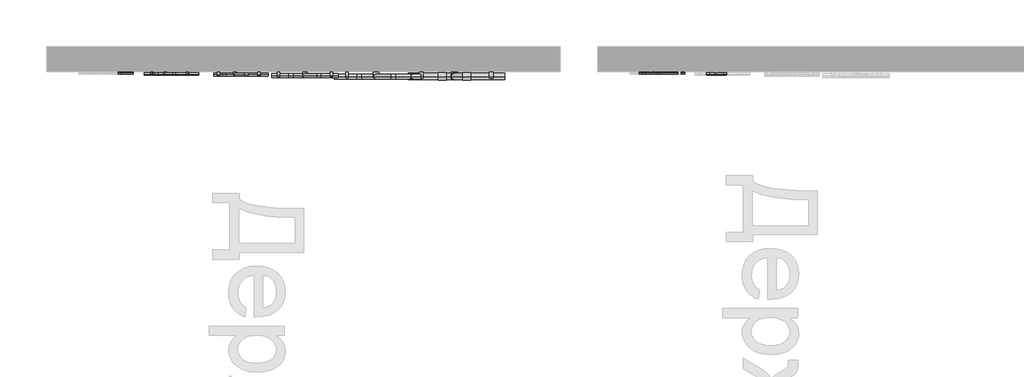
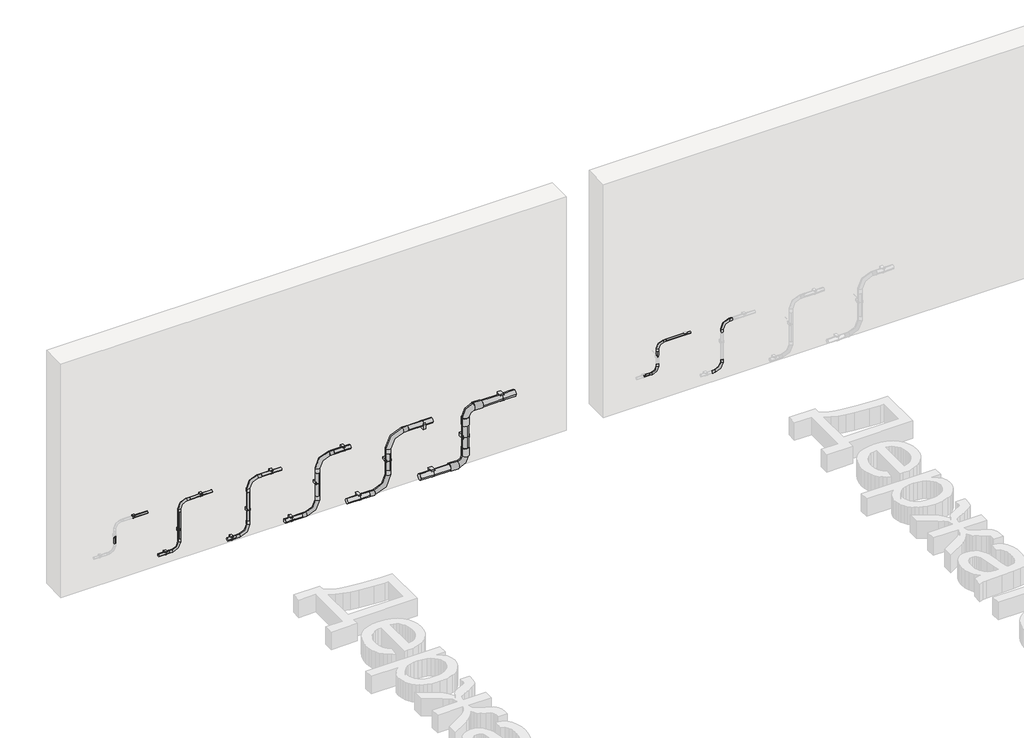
# One storey, part 6 of 33: 36 cable carrier segments, 30 cable carrier fittings.
"""IFC4 building model written with IfcOpenShell, lengths in millimetres."""

from ifc_helpers import new_model, si_unit, point, frame, frame_2d, origin, place, context, project, spatial, circle_curve, trimmed, segment, composite_curve, outline, extrude, transform, mapped, element, save
from components import cable_carrier_fitting_a50456ce, cable_carrier_fitting_980a1c15, cable_carrier_fitting_8512dd8d, cable_carrier_fitting_b8314db6, cable_carrier_fitting_b63e1f67, cable_carrier_fitting_aa8de483, cable_carrier_fitting_233f67c3, cable_carrier_fitting_f1df9ac4, cable_carrier_fitting_216e78f6, cable_carrier_fitting_60fb8931, cable_carrier_fitting_309cf5c9, cable_carrier_fitting_d8a5bbfc

model = new_model("IFC4")

# Units and contexts
model_context = context("Model", 3, world=origin())
ifc_project = project(units=[si_unit("LENGTHUNIT", "METRE", prefix="MILLI")], contexts=[model_context])

# Site, building, storey
site = spatial("IfcSite", under=ifc_project)
building = spatial("IfcBuilding", under=site)
storey = spatial("IfcBuildingStorey", under=building, Name="Уровень 1", Elevation=0.0)

# Cable carrier fittings
placement = place(None, origin())
cable_carrier_fitting_shape = cable_carrier_fitting_a50456ce(model_context)
element("IfcCableCarrierFitting", 1, ObjectType="Отвод Трубы гладкие жесткие ПВХ : Отвод Трубы гладкие жесткие ПВХ", at=placement, inside=storey, context=model_context, shape_type="MappedRepresentation", body=[
    mapped(cable_carrier_fitting_shape, transform((54257.669946, 4388.4818447, 256.0339275), x_axis=(1.0, 0.0, 0.0), y_axis=(0.0, 0.0, 1.0), z_axis=(0.0, -1.0, 0.0))),
])
element("IfcCableCarrierFitting", 2, ObjectType="Отвод Трубы гладкие жесткие ПВХ : Отвод Трубы гладкие жесткие ПВХ", at=placement, inside=storey, context=model_context, shape_type="MappedRepresentation", body=[
    mapped(cable_carrier_fitting_shape, transform((54257.669946, 4388.4818447, 500.0), x_axis=(0.0, 0.0, 1.0), y_axis=(1.0, 0.0, 0.0), z_axis=(0.0, 1.0, 0.0))),
])
cable_carrier_fitting_2_shape = cable_carrier_fitting_980a1c15(model_context)
element("IfcCableCarrierFitting", 3, ObjectType="Держатель с защелкой CF : CTA10D-CF16-K41-100", at=placement, inside=storey, context=model_context, shape_type="MappedRepresentation", body=[
    mapped(cable_carrier_fitting_2_shape, transform((50010.6424437, 4388.4818447, 500.0), x_axis=(1.0, 0.0, 0.0), y_axis=(0.0, 0.0, 1.0000000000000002), z_axis=(0.0, -1.0000000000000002, 0.0))),
])
cable_carrier_fitting_3_shape = cable_carrier_fitting_8512dd8d(model_context)
element("IfcCableCarrierFitting", 4, ObjectType="Держатель с защелкой CF : CTA10D-CF20-K41-100", at=placement, inside=storey, context=model_context, shape_type="MappedRepresentation", body=[
    mapped(cable_carrier_fitting_3_shape, transform((50268.6539102, 4383.4818447, 101.7243296), x_axis=(1.0, 0.0, 0.0), y_axis=(0.0, 0.0, 1.0000000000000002), z_axis=(0.0, -1.0000000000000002, 0.0))),
])
element("IfcCableCarrierFitting", 5, ObjectType="Держатель с защелкой CF : CTA10D-CF20-K41-100", at=placement, inside=storey, context=model_context, shape_type="MappedRepresentation", body=[
    mapped(cable_carrier_fitting_3_shape, transform((50377.669946, 4383.4818447, 264.3738365), x_axis=(0.0, 0.0, 1.0), y_axis=(-1.0000000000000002, 0.0, 0.0), z_axis=(0.0, -1.0000000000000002, 0.0))),
])
element("IfcCableCarrierFitting", 6, ObjectType="Держатель с защелкой CF : CTA10D-CF20-K41-100", at=placement, inside=storey, context=model_context, shape_type="MappedRepresentation", body=[
    mapped(cable_carrier_fitting_3_shape, transform((50555.3944709, 4383.4818447, 500.0), x_axis=(1.0, 0.0, 0.0), y_axis=(0.0, 0.0, 1.0000000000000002), z_axis=(0.0, -1.0000000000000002, 0.0))),
])
cable_carrier_fitting_4_shape = cable_carrier_fitting_b8314db6(model_context)
element("IfcCableCarrierFitting", 7, ObjectType="Держатель с защелкой CF : CTA10D-CF25-K41-100", at=placement, inside=storey, context=model_context, shape_type="MappedRepresentation", body=[
    mapped(cable_carrier_fitting_4_shape, transform((50802.6978022, 4378.4818447, 45.9), x_axis=(1.0, 0.0, 0.0), y_axis=(0.0, 0.0, 1.0000000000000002), z_axis=(0.0, -1.0000000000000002, 0.0))),
])
element("IfcCableCarrierFitting", 8, ObjectType="Держатель с защелкой CF : CTA10D-CF25-K41-100", at=placement, inside=storey, context=model_context, shape_type="MappedRepresentation", body=[
    mapped(cable_carrier_fitting_4_shape, transform((50934.2430534, 4378.4818447, 246.1577091), x_axis=(0.0, 0.0, 1.0), y_axis=(-1.0000000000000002, 0.0, 0.0), z_axis=(0.0, -1.0000000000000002, 0.0))),
])
element("IfcCableCarrierFitting", 9, ObjectType="Держатель с защелкой CF : CTA10D-CF25-K41-100", at=placement, inside=storey, context=model_context, shape_type="MappedRepresentation", body=[
    mapped(cable_carrier_fitting_4_shape, transform((51123.1371351, 4378.4818447, 500.0), x_axis=(1.0, 0.0, 0.0), y_axis=(0.0, 0.0, 1.0000000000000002), z_axis=(0.0, -1.0000000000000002, 0.0))),
])
cable_carrier_fitting_5_shape = cable_carrier_fitting_b63e1f67(model_context)
element("IfcCableCarrierFitting", 10, ObjectType="Держатель с защелкой CF : CTA10D-CF32-K41-050", at=placement, inside=storey, context=model_context, shape_type="MappedRepresentation", body=[
    mapped(cable_carrier_fitting_5_shape, transform((51490.8152632, 4371.4818447, 284.8396721), x_axis=(0.0, 0.0, 1.0), y_axis=(-1.0000000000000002, 0.0, 0.0), z_axis=(0.0, -1.0000000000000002, 0.0))),
])
element("IfcCableCarrierFitting", 11, ObjectType="Держатель с защелкой CF : CTA10D-CF32-K41-050", at=placement, inside=storey, context=model_context, shape_type="MappedRepresentation", body=[
    mapped(cable_carrier_fitting_5_shape, transform((51703.16883, 4371.4818447, 500.0), x_axis=(1.0, 0.0, 0.0), y_axis=(0.0, 0.0, 1.0000000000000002), z_axis=(0.0, -1.0000000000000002, 0.0))),
])
element("IfcCableCarrierFitting", 12, ObjectType="Держатель с защелкой CF : CTA10D-CF32-K41-050", at=placement, inside=storey, context=model_context, shape_type="MappedRepresentation", body=[
    mapped(cable_carrier_fitting_5_shape, transform((51281.4361877, 4371.4818447, 45.9), x_axis=(-1.0, 0.0, 0.0), y_axis=(0.0, 0.0, -1.0000000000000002), z_axis=(0.0, -1.0000000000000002, 0.0))),
])
cable_carrier_fitting_6_shape = cable_carrier_fitting_aa8de483(model_context)
element("IfcCableCarrierFitting", 13, ObjectType="Держатель с защелкой CF : CTA10D-CF40-K41-050", at=placement, inside=storey, context=model_context, shape_type="MappedRepresentation", body=[
    mapped(cable_carrier_fitting_6_shape, transform((52341.7922556, 4363.4818447, 500.0), x_axis=(1.0, 0.0, 0.0), y_axis=(0.0, 1.0, 0.0), z_axis=(0.0, 0.0, 1.0))),
])
element("IfcCableCarrierFitting", 14, ObjectType="Держатель с защелкой CF : CTA10D-CF40-K41-050", at=placement, inside=storey, context=model_context, shape_type="MappedRepresentation", body=[
    mapped(cable_carrier_fitting_6_shape, transform((52059.4604805, 4363.4818447, 284.8396721), x_axis=(0.0, 0.0, 1.0), y_axis=(-1.0000000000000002, 0.0, 0.0), z_axis=(0.0, -1.0000000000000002, 0.0))),
])
element("IfcCableCarrierFitting", 15, ObjectType="Держатель с защелкой CF : CTA10D-CF40-K41-050", at=placement, inside=storey, context=model_context, shape_type="MappedRepresentation", body=[
    mapped(cable_carrier_fitting_6_shape, transform((51826.6785798, 4363.4818447, 45.9), x_axis=(-1.0, 0.0, 0.0), y_axis=(0.0, 0.0, -1.0000000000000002), z_axis=(0.0, -1.0000000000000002, 0.0))),
])
cable_carrier_fitting_7_shape = cable_carrier_fitting_233f67c3(model_context)
element("IfcCableCarrierFitting", 16, ObjectType="Держатель с защелкой CF : CTA10D-CF50-K41-025", at=placement, inside=storey, context=model_context, shape_type="MappedRepresentation", body=[
    mapped(cable_carrier_fitting_7_shape, transform((52420.7889411, 4363.4818447, 45.9), x_axis=(-1.0, 0.0, 0.0), y_axis=(0.0, 0.0, -1.0000000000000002), z_axis=(0.0, -1.0000000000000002, 0.0))),
])
element("IfcCableCarrierFitting", 17, ObjectType="Держатель с защелкой CF : CTA10D-CF50-K41-025", at=placement, inside=storey, context=model_context, shape_type="MappedRepresentation", body=[
    mapped(cable_carrier_fitting_7_shape, transform((52979.0464029, 4363.4818447, 500.0), x_axis=(1.0, 0.0, 0.0), y_axis=(0.0, 0.0, 1.0000000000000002), z_axis=(0.0, -1.0000000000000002, 0.0))),
])
element("IfcCableCarrierFitting", 18, ObjectType="Держатель с защелкой CF : CTA10D-CF50-K41-025", at=placement, inside=storey, context=model_context, shape_type="MappedRepresentation", body=[
    mapped(cable_carrier_fitting_7_shape, transform((52685.3255813, 4363.4818447, 272.95), x_axis=(0.0, 0.0, 1.0), y_axis=(-1.0000000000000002, 0.0, 0.0), z_axis=(0.0, -1.0000000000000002, 0.0))),
])
cable_carrier_fitting_8_shape = cable_carrier_fitting_f1df9ac4(model_context)
element("IfcCableCarrierFitting", 19, ObjectType="Поворот на 90 труба-труба IP65 CS : Поворот на 90 труба-труба IP65 CS", at=placement, inside=storey, context=model_context, shape_type="MappedRepresentation", body=[
    mapped(cable_carrier_fitting_8_shape, transform((52685.3255813, 4363.4818447, 45.9), x_axis=(1.0, 0.0, 0.0), y_axis=(0.0, 0.0, 1.0), z_axis=(0.0, -1.0, 0.0))),
])
element("IfcCableCarrierFitting", 20, ObjectType="Поворот на 90 труба-труба IP65 CS : Поворот на 90 труба-труба IP65 CS", at=placement, inside=storey, context=model_context, shape_type="MappedRepresentation", body=[
    mapped(cable_carrier_fitting_8_shape, transform((52685.3255813, 4363.4818447, 500.0), x_axis=(0.0, 0.0, 1.0), y_axis=(1.0, 0.0, 0.0), z_axis=(0.0, 1.0, 0.0))),
])
cable_carrier_fitting_9_shape = cable_carrier_fitting_216e78f6(model_context)
element("IfcCableCarrierFitting", 21, ObjectType="Отвод Трубы гладкие жесткие ПВХ : Отвод Трубы гладкие жесткие ПВХ", at=placement, inside=storey, context=model_context, shape_type="MappedRepresentation", body=[
    mapped(cable_carrier_fitting_9_shape, transform((50377.669946, 4383.4818447, 101.7243296), x_axis=(1.0, 0.0, 0.0), y_axis=(0.0, 0.0, 1.0), z_axis=(0.0, -1.0, 0.0))),
])
element("IfcCableCarrierFitting", 22, ObjectType="Отвод Трубы гладкие жесткие ПВХ : Отвод Трубы гладкие жесткие ПВХ", at=placement, inside=storey, context=model_context, shape_type="MappedRepresentation", body=[
    mapped(cable_carrier_fitting_9_shape, transform((50377.669946, 4383.4818447, 500.0), x_axis=(0.0, 0.0, 1.0), y_axis=(1.0, 0.0, 0.0), z_axis=(0.0, 1.0, 0.0))),
])
element("IfcCableCarrierFitting", 23, ObjectType="Отвод Трубы гладкие жесткие ПВХ : Отвод Трубы гладкие жесткие ПВХ", at=placement, inside=storey, context=model_context, shape_type="MappedRepresentation", body=[
    mapped(cable_carrier_fitting_9_shape, transform((54777.669946, 4383.4818447, 101.7243296), x_axis=(1.0, 0.0, 0.0), y_axis=(0.0, 0.0, 1.0), z_axis=(0.0, -1.0, 0.0))),
])
element("IfcCableCarrierFitting", 24, ObjectType="Отвод Трубы гладкие жесткие ПВХ : Отвод Трубы гладкие жесткие ПВХ", at=placement, inside=storey, context=model_context, shape_type="MappedRepresentation", body=[
    mapped(cable_carrier_fitting_9_shape, transform((54777.669946, 4383.4818447, 500.0), x_axis=(0.0, 0.0, 1.0), y_axis=(1.0, 0.0, 0.0), z_axis=(0.0, 1.0, 0.0))),
])
cable_carrier_fitting_10_shape = cable_carrier_fitting_60fb8931(model_context)
element("IfcCableCarrierFitting", 25, ObjectType="Отвод Трубы гладкие жесткие ПВХ : Отвод Трубы гладкие жесткие ПВХ", at=placement, inside=storey, context=model_context, shape_type="MappedRepresentation", body=[
    mapped(cable_carrier_fitting_10_shape, transform((50934.2430534, 4378.4818447, 45.9), x_axis=(1.0, 0.0, 0.0), y_axis=(0.0, 0.0, 1.0), z_axis=(0.0, -1.0, 0.0))),
])
element("IfcCableCarrierFitting", 26, ObjectType="Отвод Трубы гладкие жесткие ПВХ : Отвод Трубы гладкие жесткие ПВХ", at=placement, inside=storey, context=model_context, shape_type="MappedRepresentation", body=[
    mapped(cable_carrier_fitting_10_shape, transform((50934.2430534, 4378.4818447, 500.0), x_axis=(0.0, 0.0, 1.0), y_axis=(1.0, 0.0, 0.0), z_axis=(0.0, 1.0, 0.0))),
])
cable_carrier_fitting_11_shape = cable_carrier_fitting_309cf5c9(model_context)
element("IfcCableCarrierFitting", 27, ObjectType="Отвод Трубы гладкие жесткие ПВХ : Отвод Трубы гладкие жесткие ПВХ", at=placement, inside=storey, context=model_context, shape_type="MappedRepresentation", body=[
    mapped(cable_carrier_fitting_11_shape, transform((51490.8152632, 4371.4818447, 45.9), x_axis=(1.0, 0.0, 0.0), y_axis=(0.0, 0.0, 1.0), z_axis=(0.0, -1.0, 0.0))),
])
element("IfcCableCarrierFitting", 28, ObjectType="Отвод Трубы гладкие жесткие ПВХ : Отвод Трубы гладкие жесткие ПВХ", at=placement, inside=storey, context=model_context, shape_type="MappedRepresentation", body=[
    mapped(cable_carrier_fitting_11_shape, transform((51490.8152632, 4371.4818447, 500.0), x_axis=(0.0, 0.0, 1.0), y_axis=(1.0, 0.0, 0.0), z_axis=(0.0, 1.0, 0.0))),
])
cable_carrier_fitting_12_shape = cable_carrier_fitting_d8a5bbfc(model_context)
element("IfcCableCarrierFitting", 29, ObjectType="Отвод Трубы гладкие жесткие ПВХ : Отвод Трубы гладкие жесткие ПВХ", at=placement, inside=storey, context=model_context, shape_type="MappedRepresentation", body=[
    mapped(cable_carrier_fitting_12_shape, transform((52059.4604805, 4363.4818447, 45.9), x_axis=(1.0, 0.0, 0.0), y_axis=(0.0, 0.0, 1.0), z_axis=(0.0, -1.0, 0.0))),
])
element("IfcCableCarrierFitting", 30, ObjectType="Отвод Трубы гладкие жесткие ПВХ : Отвод Трубы гладкие жесткие ПВХ", at=placement, inside=storey, context=model_context, shape_type="MappedRepresentation", body=[
    mapped(cable_carrier_fitting_12_shape, transform((52059.4604805, 4363.4818447, 500.0), x_axis=(0.0, 0.0, 1.0), y_axis=(1.0, 0.0, 0.0), z_axis=(0.0, 1.0, 0.0))),
])

# Cable carrier segments
element("IfcCableCarrierSegment", 31, ObjectType="Трубы гладкие жесткие ПВХ", at=placement, inside=storey, context=model_context, shape_type="SweptSolid", body=[
    extrude(outline(composite_curve([segment(trimmed(circle_curve(frame_2d((4388.4818447, 500.0)), 8.0), [point((4380.4818447, 500.0))], [point((4388.4818447, 508.0))], False, "CARTESIAN"), True, "CONTINUOUS"), segment(trimmed(circle_curve(frame_2d((4388.4818447, 500.0)), 8.0), [point((4388.4818447, 508.0))], [point((4396.4818447, 500.0))], False, "CARTESIAN"), True, "CONTINUOUS"), segment(trimmed(circle_curve(frame_2d((4388.4818447, 500.0)), 8.0), [point((4396.4818447, 500.0))], [point((4388.4818447, 492.0))], False, "CARTESIAN"), True, "CONTINUOUS"), segment(trimmed(circle_curve(frame_2d((4388.4818447, 500.0)), 8.0), [point((4388.4818447, 492.0))], [point((4380.4818447, 500.0))], False, "CARTESIAN"), True, "CONTINUOUS")], self_intersect=False)), frame((50010.6424437, 0.0, 0.0), z_axis=(1.0, 0.0, 0.0), x_axis=(0.0, 1.0, 0.0)), (0.0, 0.0, 1.0), 112.0275023),
])
element("IfcCableCarrierSegment", 32, ObjectType="Трубы гладкие жесткие ПВХ", at=placement, inside=storey, context=model_context, shape_type="SweptSolid", body=[
    extrude(outline(composite_curve([segment(trimmed(circle_curve(frame_2d((4383.4818447, 101.7243296)), 10.0), [point((4373.4818447, 101.7243296))], [point((4383.4818447, 111.7243296))], False, "CARTESIAN"), True, "CONTINUOUS"), segment(trimmed(circle_curve(frame_2d((4383.4818447, 101.7243296)), 10.0), [point((4383.4818447, 111.7243296))], [point((4393.4818447, 101.7243296))], False, "CARTESIAN"), True, "CONTINUOUS"), segment(trimmed(circle_curve(frame_2d((4383.4818447, 101.7243296)), 10.0), [point((4393.4818447, 101.7243296))], [point((4383.4818447, 91.7243296))], False, "CARTESIAN"), True, "CONTINUOUS"), segment(trimmed(circle_curve(frame_2d((4383.4818447, 101.7243296)), 10.0), [point((4383.4818447, 91.7243296))], [point((4373.4818447, 101.7243296))], False, "CARTESIAN"), True, "CONTINUOUS")], self_intersect=False)), frame((50268.6539102, 0.0, 0.0), z_axis=(1.0, 0.0, 0.0), x_axis=(0.0, 1.0, 0.0)), (0.0, 0.0, 1.0), 25.5262358),
])
element("IfcCableCarrierSegment", 33, ObjectType="Трубы гладкие жесткие ПВХ", at=placement, inside=storey, context=model_context, shape_type="SweptSolid", body=[
    extrude(outline(composite_curve([segment(trimmed(circle_curve(frame_2d((4383.4818447, 500.0)), 10.0), [point((4373.4818447, 500.0))], [point((4383.4818447, 510.0))], False, "CARTESIAN"), True, "CONTINUOUS"), segment(trimmed(circle_curve(frame_2d((4383.4818447, 500.0)), 10.0), [point((4383.4818447, 510.0))], [point((4393.4818447, 500.0))], False, "CARTESIAN"), True, "CONTINUOUS"), segment(trimmed(circle_curve(frame_2d((4383.4818447, 500.0)), 10.0), [point((4393.4818447, 500.0))], [point((4383.4818447, 490.0))], False, "CARTESIAN"), True, "CONTINUOUS"), segment(trimmed(circle_curve(frame_2d((4383.4818447, 500.0)), 10.0), [point((4383.4818447, 490.0))], [point((4373.4818447, 500.0))], False, "CARTESIAN"), True, "CONTINUOUS")], self_intersect=False)), frame((50555.3944709, 0.0, 0.0), z_axis=(1.0, 0.0, 0.0), x_axis=(0.0, 1.0, 0.0)), (0.0, 0.0, 1.0), 87.2754751),
])
element("IfcCableCarrierSegment", 34, ObjectType="Трубы гладкие жесткие ПВХ", at=placement, inside=storey, context=model_context, shape_type="SweptSolid", body=[
    extrude(outline(composite_curve([segment(trimmed(circle_curve(frame_2d((50377.669946, 4383.4818447)), 10.0), [point((50367.669946, 4383.4818447))], [point((50377.669946, 4393.4818447))], False, "CARTESIAN"), True, "CONTINUOUS"), segment(trimmed(circle_curve(frame_2d((50377.669946, 4383.4818447)), 10.0), [point((50377.669946, 4393.4818447))], [point((50387.669946, 4383.4818447))], False, "CARTESIAN"), True, "CONTINUOUS"), segment(trimmed(circle_curve(frame_2d((50377.669946, 4383.4818447)), 10.0), [point((50387.669946, 4383.4818447))], [point((50377.669946, 4373.4818447))], False, "CARTESIAN"), True, "CONTINUOUS"), segment(trimmed(circle_curve(frame_2d((50377.669946, 4383.4818447)), 10.0), [point((50377.669946, 4373.4818447))], [point((50367.669946, 4383.4818447))], False, "CARTESIAN"), True, "CONTINUOUS")], self_intersect=False)), frame((0.0, 0.0, 264.3738365), z_axis=(0.0, 0.0, 1.0), x_axis=(1.0, 0.0, 0.0)), (0.0, 0.0, 1.0), 152.1363635),
])
element("IfcCableCarrierSegment", 35, ObjectType="Трубы гладкие жесткие ПВХ", at=placement, inside=storey, context=model_context, shape_type="SweptSolid", body=[
    extrude(outline(composite_curve([segment(trimmed(circle_curve(frame_2d((4378.4818447, 45.9)), 12.5), [point((4365.9818447, 45.9))], [point((4378.4818447, 58.4))], False, "CARTESIAN"), True, "CONTINUOUS"), segment(trimmed(circle_curve(frame_2d((4378.4818447, 45.9)), 12.5), [point((4378.4818447, 58.4))], [point((4390.9818447, 45.9))], False, "CARTESIAN"), True, "CONTINUOUS"), segment(trimmed(circle_curve(frame_2d((4378.4818447, 45.9)), 12.5), [point((4390.9818447, 45.9))], [point((4378.4818447, 33.4))], False, "CARTESIAN"), True, "CONTINUOUS"), segment(trimmed(circle_curve(frame_2d((4378.4818447, 45.9)), 12.5), [point((4378.4818447, 33.4))], [point((4365.9818447, 45.9))], False, "CARTESIAN"), True, "CONTINUOUS")], self_intersect=False)), frame((50802.6978022, 0.0, 0.0), z_axis=(1.0, 0.0, 0.0), x_axis=(0.0, 1.0, 0.0)), (0.0, 0.0, 1.0), 28.6498512),
])
element("IfcCableCarrierSegment", 36, ObjectType="Трубы гладкие жесткие ПВХ", at=placement, inside=storey, context=model_context, shape_type="SweptSolid", body=[
    extrude(outline(composite_curve([segment(trimmed(circle_curve(frame_2d((4378.4818447, 500.0)), 12.5), [point((4365.9818447, 500.0))], [point((4378.4818447, 512.5))], False, "CARTESIAN"), True, "CONTINUOUS"), segment(trimmed(circle_curve(frame_2d((4378.4818447, 500.0)), 12.5), [point((4378.4818447, 512.5))], [point((4390.9818447, 500.0))], False, "CARTESIAN"), True, "CONTINUOUS"), segment(trimmed(circle_curve(frame_2d((4378.4818447, 500.0)), 12.5), [point((4390.9818447, 500.0))], [point((4378.4818447, 487.5))], False, "CARTESIAN"), True, "CONTINUOUS"), segment(trimmed(circle_curve(frame_2d((4378.4818447, 500.0)), 12.5), [point((4378.4818447, 487.5))], [point((4365.9818447, 500.0))], False, "CARTESIAN"), True, "CONTINUOUS")], self_intersect=False)), frame((51123.1371351, 0.0, 0.0), z_axis=(1.0, 0.0, 0.0), x_axis=(0.0, 1.0, 0.0)), (0.0, 0.0, 1.0), 76.1059183),
])
element("IfcCableCarrierSegment", 37, ObjectType="Трубы гладкие жесткие ПВХ", at=placement, inside=storey, context=model_context, shape_type="SweptSolid", body=[
    extrude(outline(composite_curve([segment(trimmed(circle_curve(frame_2d((50934.2430534, 4378.4818447)), 12.5), [point((50921.7430534, 4378.4818447))], [point((50934.2430534, 4390.9818447))], False, "CARTESIAN"), True, "CONTINUOUS"), segment(trimmed(circle_curve(frame_2d((50934.2430534, 4378.4818447)), 12.5), [point((50934.2430534, 4390.9818447))], [point((50946.7430534, 4378.4818447))], False, "CARTESIAN"), True, "CONTINUOUS"), segment(trimmed(circle_curve(frame_2d((50934.2430534, 4378.4818447)), 12.5), [point((50946.7430534, 4378.4818447))], [point((50934.2430534, 4365.9818447))], False, "CARTESIAN"), True, "CONTINUOUS"), segment(trimmed(circle_curve(frame_2d((50934.2430534, 4378.4818447)), 12.5), [point((50934.2430534, 4365.9818447))], [point((50921.7430534, 4378.4818447))], False, "CARTESIAN"), True, "CONTINUOUS")], self_intersect=False)), frame((0.0, 0.0, 246.1577091), z_axis=(0.0, 0.0, 1.0), x_axis=(1.0, 0.0, 0.0)), (0.0, 0.0, 1.0), 150.9468909),
])
element("IfcCableCarrierSegment", 38, ObjectType="Трубы гладкие жесткие ПВХ", at=placement, inside=storey, context=model_context, shape_type="SweptSolid", body=[
    extrude(outline(composite_curve([segment(trimmed(circle_curve(frame_2d((4371.4818447, 45.9)), 16.0), [point((4387.4818447, 45.9))], [point((4371.4818447, 29.9))], False, "CARTESIAN"), True, "CONTINUOUS"), segment(trimmed(circle_curve(frame_2d((4371.4818447, 45.9)), 16.0), [point((4371.4818447, 29.9))], [point((4355.4818447, 45.9))], False, "CARTESIAN"), True, "CONTINUOUS"), segment(trimmed(circle_curve(frame_2d((4371.4818447, 45.9)), 16.0), [point((4355.4818447, 45.9))], [point((4371.4818447, 61.9))], False, "CARTESIAN"), True, "CONTINUOUS"), segment(trimmed(circle_curve(frame_2d((4371.4818447, 45.9)), 16.0), [point((4371.4818447, 61.9))], [point((4387.4818447, 45.9))], False, "CARTESIAN"), True, "CONTINUOUS")], self_intersect=False)), frame((51225.8152632, 0.0, 0.0), z_axis=(1.0, 0.0, 0.0), x_axis=(0.0, 1.0, 0.0)), (0.0, 0.0, 1.0), 55.6209245),
])
element("IfcCableCarrierSegment", 39, ObjectType="Трубы гладкие жесткие ПВХ", at=placement, inside=storey, context=model_context, shape_type="SweptSolid", body=[
    extrude(outline(composite_curve([segment(trimmed(circle_curve(frame_2d((4371.4818447, 500.0)), 16.0), [point((4355.4818447, 500.0))], [point((4371.4818447, 516.0))], False, "CARTESIAN"), True, "CONTINUOUS"), segment(trimmed(circle_curve(frame_2d((4371.4818447, 500.0)), 16.0), [point((4371.4818447, 516.0))], [point((4387.4818447, 500.0))], False, "CARTESIAN"), True, "CONTINUOUS"), segment(trimmed(circle_curve(frame_2d((4371.4818447, 500.0)), 16.0), [point((4387.4818447, 500.0))], [point((4371.4818447, 484.0))], False, "CARTESIAN"), True, "CONTINUOUS"), segment(trimmed(circle_curve(frame_2d((4371.4818447, 500.0)), 16.0), [point((4371.4818447, 484.0))], [point((4355.4818447, 500.0))], False, "CARTESIAN"), True, "CONTINUOUS")], self_intersect=False)), frame((51703.16883, 0.0, 0.0), z_axis=(1.0, 0.0, 0.0), x_axis=(0.0, 1.0, 0.0)), (0.0, 0.0, 1.0), 52.6464332),
])
element("IfcCableCarrierSegment", 40, ObjectType="Трубы гладкие жесткие ПВХ", at=placement, inside=storey, context=model_context, shape_type="SweptSolid", body=[
    extrude(outline(composite_curve([segment(trimmed(circle_curve(frame_2d((51490.8152632, 4371.4818447)), 16.0), [point((51474.8152632, 4371.4818447))], [point((51490.8152632, 4387.4818447))], False, "CARTESIAN"), True, "CONTINUOUS"), segment(trimmed(circle_curve(frame_2d((51490.8152632, 4371.4818447)), 16.0), [point((51490.8152632, 4387.4818447))], [point((51506.8152632, 4371.4818447))], False, "CARTESIAN"), True, "CONTINUOUS"), segment(trimmed(circle_curve(frame_2d((51490.8152632, 4371.4818447)), 16.0), [point((51506.8152632, 4371.4818447))], [point((51490.8152632, 4355.4818447))], False, "CARTESIAN"), True, "CONTINUOUS"), segment(trimmed(circle_curve(frame_2d((51490.8152632, 4371.4818447)), 16.0), [point((51490.8152632, 4355.4818447))], [point((51474.8152632, 4371.4818447))], False, "CARTESIAN"), True, "CONTINUOUS")], self_intersect=False)), frame((0.0, 0.0, 284.8396721), z_axis=(0.0, 0.0, 1.0), x_axis=(1.0, 0.0, 0.0)), (0.0, 0.0, 1.0), 86.8903279),
])
element("IfcCableCarrierSegment", 41, ObjectType="Трубы гладкие жесткие ПВХ", at=placement, inside=storey, context=model_context, shape_type="SweptSolid", body=[
    extrude(outline(composite_curve([segment(trimmed(circle_curve(frame_2d((4363.4818447, 45.9)), 20.0), [point((4383.4818447, 45.9))], [point((4363.4818447, 25.9))], False, "CARTESIAN"), True, "CONTINUOUS"), segment(trimmed(circle_curve(frame_2d((4363.4818447, 45.9)), 20.0), [point((4363.4818447, 25.9))], [point((4343.4818447, 45.9))], False, "CARTESIAN"), True, "CONTINUOUS"), segment(trimmed(circle_curve(frame_2d((4363.4818447, 45.9)), 20.0), [point((4343.4818447, 45.9))], [point((4363.4818447, 65.9))], False, "CARTESIAN"), True, "CONTINUOUS"), segment(trimmed(circle_curve(frame_2d((4363.4818447, 45.9)), 20.0), [point((4363.4818447, 65.9))], [point((4383.4818447, 45.9))], False, "CARTESIAN"), True, "CONTINUOUS")], self_intersect=False)), frame((51724.4604805, 0.0, 0.0), z_axis=(1.0, 0.0, 0.0), x_axis=(0.0, 1.0, 0.0)), (0.0, 0.0, 1.0), 102.2180993),
])
element("IfcCableCarrierSegment", 42, ObjectType="Трубы гладкие жесткие ПВХ", at=placement, inside=storey, context=model_context, shape_type="SweptSolid", body=[
    extrude(outline(composite_curve([segment(trimmed(circle_curve(frame_2d((4363.4818447, 500.0)), 20.0), [point((4343.4818447, 500.0))], [point((4363.4818447, 520.0))], False, "CARTESIAN"), True, "CONTINUOUS"), segment(trimmed(circle_curve(frame_2d((4363.4818447, 500.0)), 20.0), [point((4363.4818447, 520.0))], [point((4383.4818447, 500.0))], False, "CARTESIAN"), True, "CONTINUOUS"), segment(trimmed(circle_curve(frame_2d((4363.4818447, 500.0)), 20.0), [point((4383.4818447, 500.0))], [point((4363.4818447, 480.0))], False, "CARTESIAN"), True, "CONTINUOUS"), segment(trimmed(circle_curve(frame_2d((4363.4818447, 500.0)), 20.0), [point((4363.4818447, 480.0))], [point((4343.4818447, 500.0))], False, "CARTESIAN"), True, "CONTINUOUS")], self_intersect=False)), frame((52341.7922556, 0.0, 0.0), z_axis=(1.0, 0.0, 0.0), x_axis=(0.0, 1.0, 0.0)), (0.0, 0.0, 1.0), 72.6682249),
])
element("IfcCableCarrierSegment", 43, ObjectType="Трубы гладкие жесткие ПВХ", at=placement, inside=storey, context=model_context, shape_type="SweptSolid", body=[
    extrude(outline(composite_curve([segment(trimmed(circle_curve(frame_2d((52059.4604805, 4363.4818447)), 20.0), [point((52039.4604805, 4363.4818447))], [point((52059.4604805, 4383.4818447))], False, "CARTESIAN"), True, "CONTINUOUS"), segment(trimmed(circle_curve(frame_2d((52059.4604805, 4363.4818447)), 20.0), [point((52059.4604805, 4383.4818447))], [point((52079.4604805, 4363.4818447))], False, "CARTESIAN"), True, "CONTINUOUS"), segment(trimmed(circle_curve(frame_2d((52059.4604805, 4363.4818447)), 20.0), [point((52079.4604805, 4363.4818447))], [point((52059.4604805, 4343.4818447))], False, "CARTESIAN"), True, "CONTINUOUS"), segment(trimmed(circle_curve(frame_2d((52059.4604805, 4363.4818447)), 20.0), [point((52059.4604805, 4343.4818447))], [point((52039.4604805, 4363.4818447))], False, "CARTESIAN"), True, "CONTINUOUS")], self_intersect=False)), frame((0.0, 0.0, 284.8396721), z_axis=(0.0, 0.0, 1.0), x_axis=(1.0, 0.0, 0.0)), (0.0, 0.0, 1.0), 59.0773279),
])
element("IfcCableCarrierSegment", 44, ObjectType="Трубы гладкие жесткие ПВХ", at=placement, inside=storey, context=model_context, shape_type="SweptSolid", body=[
    extrude(outline(composite_curve([segment(trimmed(circle_curve(frame_2d((4363.4818447, 45.9)), 25.0), [point((4388.4818447, 45.9))], [point((4363.4818447, 20.9))], False, "CARTESIAN"), True, "CONTINUOUS"), segment(trimmed(circle_curve(frame_2d((4363.4818447, 45.9)), 25.0), [point((4363.4818447, 20.9))], [point((4338.4818447, 45.9))], False, "CARTESIAN"), True, "CONTINUOUS"), segment(trimmed(circle_curve(frame_2d((4363.4818447, 45.9)), 25.0), [point((4338.4818447, 45.9))], [point((4363.4818447, 70.9))], False, "CARTESIAN"), True, "CONTINUOUS"), segment(trimmed(circle_curve(frame_2d((4363.4818447, 45.9)), 25.0), [point((4363.4818447, 70.9))], [point((4388.4818447, 45.9))], False, "CARTESIAN"), True, "CONTINUOUS")], self_intersect=False)), frame((52315.3255813, 0.0, 0.0), z_axis=(1.0, 0.0, 0.0), x_axis=(0.0, 1.0, 0.0)), (0.0, 0.0, 1.0), 105.4633597),
])
element("IfcCableCarrierSegment", 45, ObjectType="Трубы гладкие жесткие ПВХ", at=placement, inside=storey, context=model_context, shape_type="SweptSolid", body=[
    extrude(outline(composite_curve([segment(trimmed(circle_curve(frame_2d((4363.4818447, 500.0)), 25.0), [point((4338.4818447, 500.0))], [point((4363.4818447, 525.0))], False, "CARTESIAN"), True, "CONTINUOUS"), segment(trimmed(circle_curve(frame_2d((4363.4818447, 500.0)), 25.0), [point((4363.4818447, 525.0))], [point((4388.4818447, 500.0))], False, "CARTESIAN"), True, "CONTINUOUS"), segment(trimmed(circle_curve(frame_2d((4363.4818447, 500.0)), 25.0), [point((4388.4818447, 500.0))], [point((4363.4818447, 475.0))], False, "CARTESIAN"), True, "CONTINUOUS"), segment(trimmed(circle_curve(frame_2d((4363.4818447, 500.0)), 25.0), [point((4363.4818447, 475.0))], [point((4338.4818447, 500.0))], False, "CARTESIAN"), True, "CONTINUOUS")], self_intersect=False)), frame((52979.0464029, 0.0, 0.0), z_axis=(1.0, 0.0, 0.0), x_axis=(0.0, 1.0, 0.0)), (0.0, 0.0, 1.0), 106.2791785),
])
element("IfcCableCarrierSegment", 46, ObjectType="Трубы гладкие жесткие ПВХ", at=placement, inside=storey, context=model_context, shape_type="SweptSolid", body=[
    extrude(outline(composite_curve([segment(trimmed(circle_curve(frame_2d((52685.3255813, 4363.4818447)), 25.0), [point((52660.3255813, 4363.4818447))], [point((52685.3255813, 4388.4818447))], False, "CARTESIAN"), True, "CONTINUOUS"), segment(trimmed(circle_curve(frame_2d((52685.3255813, 4363.4818447)), 25.0), [point((52685.3255813, 4388.4818447))], [point((52710.3255813, 4363.4818447))], False, "CARTESIAN"), True, "CONTINUOUS"), segment(trimmed(circle_curve(frame_2d((52685.3255813, 4363.4818447)), 25.0), [point((52710.3255813, 4363.4818447))], [point((52685.3255813, 4338.4818447))], False, "CARTESIAN"), True, "CONTINUOUS"), segment(trimmed(circle_curve(frame_2d((52685.3255813, 4363.4818447)), 25.0), [point((52685.3255813, 4338.4818447))], [point((52660.3255813, 4363.4818447))], False, "CARTESIAN"), True, "CONTINUOUS")], self_intersect=False)), frame((0.0, 0.0, 272.95), z_axis=(0.0, 0.0, 1.0), x_axis=(1.0, 0.0, 0.0)), (0.0, 0.0, 1.0), 97.05),
])
element("IfcCableCarrierSegment", 47, ObjectType="Трубы гладкие жесткие ПВХ", at=placement, inside=storey, context=model_context, shape_type="SweptSolid", body=[
    extrude(outline(composite_curve([segment(trimmed(circle_curve(frame_2d((49857.669946, 4388.4818447)), 8.0), [point((49849.669946, 4388.4818447))], [point((49857.669946, 4396.4818447))], False, "CARTESIAN"), True, "CONTINUOUS"), segment(trimmed(circle_curve(frame_2d((49857.669946, 4388.4818447)), 8.0), [point((49857.669946, 4396.4818447))], [point((49865.669946, 4388.4818447))], False, "CARTESIAN"), True, "CONTINUOUS"), segment(trimmed(circle_curve(frame_2d((49857.669946, 4388.4818447)), 8.0), [point((49865.669946, 4388.4818447))], [point((49857.669946, 4380.4818447))], False, "CARTESIAN"), True, "CONTINUOUS"), segment(trimmed(circle_curve(frame_2d((49857.669946, 4388.4818447)), 8.0), [point((49857.669946, 4380.4818447))], [point((49849.669946, 4388.4818447))], False, "CARTESIAN"), True, "CONTINUOUS")], self_intersect=False)), frame((0.0, 0.0, 323.1153275), z_axis=(0.0, 0.0, 1.0), x_axis=(1.0, 0.0, 0.0)), (0.0, 0.0, 1.0), 65.3404366),
])
element("IfcCableCarrierSegment", 48, ObjectType="Трубы гладкие жесткие ПВХ", at=placement, inside=storey, context=model_context, shape_type="SweptSolid", body=[
    extrude(outline(composite_curve([segment(trimmed(circle_curve(frame_2d((4383.4818447, 101.7243296)), 10.0), [point((4373.4818447, 101.7243296))], [point((4383.4818447, 111.7243296))], False, "CARTESIAN"), True, "CONTINUOUS"), segment(trimmed(circle_curve(frame_2d((4383.4818447, 101.7243296)), 10.0), [point((4383.4818447, 111.7243296))], [point((4393.4818447, 101.7243296))], False, "CARTESIAN"), True, "CONTINUOUS"), segment(trimmed(circle_curve(frame_2d((4383.4818447, 101.7243296)), 10.0), [point((4393.4818447, 101.7243296))], [point((4383.4818447, 91.7243296))], False, "CARTESIAN"), True, "CONTINUOUS"), segment(trimmed(circle_curve(frame_2d((4383.4818447, 101.7243296)), 10.0), [point((4383.4818447, 91.7243296))], [point((4373.4818447, 101.7243296))], False, "CARTESIAN"), True, "CONTINUOUS")], self_intersect=False)), frame((50207.669946, 0.0, 0.0), z_axis=(1.0, 0.0, 0.0), x_axis=(0.0, 1.0, 0.0)), (0.0, 0.0, 1.0), 60.9839642),
])
element("IfcCableCarrierSegment", 49, ObjectType="Трубы гладкие жесткие ПВХ", at=placement, inside=storey, context=model_context, shape_type="SweptSolid", body=[
    extrude(outline(composite_curve([segment(trimmed(circle_curve(frame_2d((50377.669946, 4383.4818447)), 10.0), [point((50367.669946, 4383.4818447))], [point((50377.669946, 4393.4818447))], False, "CARTESIAN"), True, "CONTINUOUS"), segment(trimmed(circle_curve(frame_2d((50377.669946, 4383.4818447)), 10.0), [point((50377.669946, 4393.4818447))], [point((50387.669946, 4383.4818447))], False, "CARTESIAN"), True, "CONTINUOUS"), segment(trimmed(circle_curve(frame_2d((50377.669946, 4383.4818447)), 10.0), [point((50387.669946, 4383.4818447))], [point((50377.669946, 4373.4818447))], False, "CARTESIAN"), True, "CONTINUOUS"), segment(trimmed(circle_curve(frame_2d((50377.669946, 4383.4818447)), 10.0), [point((50377.669946, 4373.4818447))], [point((50367.669946, 4383.4818447))], False, "CARTESIAN"), True, "CONTINUOUS")], self_intersect=False)), frame((0.0, 0.0, 185.2141296), z_axis=(0.0, 0.0, 1.0), x_axis=(1.0, 0.0, 0.0)), (0.0, 0.0, 1.0), 79.159707),
])
element("IfcCableCarrierSegment", 50, ObjectType="Трубы гладкие жесткие ПВХ", at=placement, inside=storey, context=model_context, shape_type="SweptSolid", body=[
    extrude(outline(composite_curve([segment(trimmed(circle_curve(frame_2d((4383.4818447, 500.0)), 10.0), [point((4373.4818447, 500.0))], [point((4383.4818447, 510.0))], False, "CARTESIAN"), True, "CONTINUOUS"), segment(trimmed(circle_curve(frame_2d((4383.4818447, 500.0)), 10.0), [point((4383.4818447, 510.0))], [point((4393.4818447, 500.0))], False, "CARTESIAN"), True, "CONTINUOUS"), segment(trimmed(circle_curve(frame_2d((4383.4818447, 500.0)), 10.0), [point((4393.4818447, 500.0))], [point((4383.4818447, 490.0))], False, "CARTESIAN"), True, "CONTINUOUS"), segment(trimmed(circle_curve(frame_2d((4383.4818447, 500.0)), 10.0), [point((4383.4818447, 490.0))], [point((4373.4818447, 500.0))], False, "CARTESIAN"), True, "CONTINUOUS")], self_intersect=False)), frame((50461.159746, 0.0, 0.0), z_axis=(1.0, 0.0, 0.0), x_axis=(0.0, 1.0, 0.0)), (0.0, 0.0, 1.0), 94.2347249),
])
element("IfcCableCarrierSegment", 51, ObjectType="Трубы гладкие жесткие ПВХ", at=placement, inside=storey, context=model_context, shape_type="SweptSolid", body=[
    extrude(outline(composite_curve([segment(trimmed(circle_curve(frame_2d((4378.4818447, 45.9)), 12.5), [point((4365.9818447, 45.9))], [point((4378.4818447, 58.4))], False, "CARTESIAN"), True, "CONTINUOUS"), segment(trimmed(circle_curve(frame_2d((4378.4818447, 45.9)), 12.5), [point((4378.4818447, 58.4))], [point((4390.9818447, 45.9))], False, "CARTESIAN"), True, "CONTINUOUS"), segment(trimmed(circle_curve(frame_2d((4378.4818447, 45.9)), 12.5), [point((4390.9818447, 45.9))], [point((4378.4818447, 33.4))], False, "CARTESIAN"), True, "CONTINUOUS"), segment(trimmed(circle_curve(frame_2d((4378.4818447, 45.9)), 12.5), [point((4378.4818447, 33.4))], [point((4365.9818447, 45.9))], False, "CARTESIAN"), True, "CONTINUOUS")], self_intersect=False)), frame((50764.2430534, 0.0, 0.0), z_axis=(1.0, 0.0, 0.0), x_axis=(0.0, 1.0, 0.0)), (0.0, 0.0, 1.0), 38.4547488),
])
element("IfcCableCarrierSegment", 52, ObjectType="Трубы гладкие жесткие ПВХ", at=placement, inside=storey, context=model_context, shape_type="SweptSolid", body=[
    extrude(outline(composite_curve([segment(trimmed(circle_curve(frame_2d((50934.2430534, 4378.4818447)), 12.5), [point((50921.7430534, 4378.4818447))], [point((50934.2430534, 4390.9818447))], False, "CARTESIAN"), True, "CONTINUOUS"), segment(trimmed(circle_curve(frame_2d((50934.2430534, 4378.4818447)), 12.5), [point((50934.2430534, 4390.9818447))], [point((50946.7430534, 4378.4818447))], False, "CARTESIAN"), True, "CONTINUOUS"), segment(trimmed(circle_curve(frame_2d((50934.2430534, 4378.4818447)), 12.5), [point((50946.7430534, 4378.4818447))], [point((50934.2430534, 4365.9818447))], False, "CARTESIAN"), True, "CONTINUOUS"), segment(trimmed(circle_curve(frame_2d((50934.2430534, 4378.4818447)), 12.5), [point((50934.2430534, 4365.9818447))], [point((50921.7430534, 4378.4818447))], False, "CARTESIAN"), True, "CONTINUOUS")], self_intersect=False)), frame((0.0, 0.0, 148.7954), z_axis=(0.0, 0.0, 1.0), x_axis=(1.0, 0.0, 0.0)), (0.0, 0.0, 1.0), 97.3623091),
])
element("IfcCableCarrierSegment", 53, ObjectType="Трубы гладкие жесткие ПВХ", at=placement, inside=storey, context=model_context, shape_type="SweptSolid", body=[
    extrude(outline(composite_curve([segment(trimmed(circle_curve(frame_2d((4378.4818447, 500.0)), 12.5), [point((4365.9818447, 500.0))], [point((4378.4818447, 512.5))], False, "CARTESIAN"), True, "CONTINUOUS"), segment(trimmed(circle_curve(frame_2d((4378.4818447, 500.0)), 12.5), [point((4378.4818447, 512.5))], [point((4390.9818447, 500.0))], False, "CARTESIAN"), True, "CONTINUOUS"), segment(trimmed(circle_curve(frame_2d((4378.4818447, 500.0)), 12.5), [point((4390.9818447, 500.0))], [point((4378.4818447, 487.5))], False, "CARTESIAN"), True, "CONTINUOUS"), segment(trimmed(circle_curve(frame_2d((4378.4818447, 500.0)), 12.5), [point((4378.4818447, 487.5))], [point((4365.9818447, 500.0))], False, "CARTESIAN"), True, "CONTINUOUS")], self_intersect=False)), frame((51037.1384534, 0.0, 0.0), z_axis=(1.0, 0.0, 0.0), x_axis=(0.0, 1.0, 0.0)), (0.0, 0.0, 1.0), 85.9986817),
])
element("IfcCableCarrierSegment", 54, ObjectType="Трубы гладкие жесткие ПВХ", at=placement, inside=storey, context=model_context, shape_type="SweptSolid", body=[
    extrude(outline(composite_curve([segment(trimmed(circle_curve(frame_2d((51490.8152632, 4371.4818447)), 16.0), [point((51474.8152632, 4371.4818447))], [point((51490.8152632, 4387.4818447))], False, "CARTESIAN"), True, "CONTINUOUS"), segment(trimmed(circle_curve(frame_2d((51490.8152632, 4371.4818447)), 16.0), [point((51490.8152632, 4387.4818447))], [point((51506.8152632, 4371.4818447))], False, "CARTESIAN"), True, "CONTINUOUS"), segment(trimmed(circle_curve(frame_2d((51490.8152632, 4371.4818447)), 16.0), [point((51506.8152632, 4371.4818447))], [point((51490.8152632, 4355.4818447))], False, "CARTESIAN"), True, "CONTINUOUS"), segment(trimmed(circle_curve(frame_2d((51490.8152632, 4371.4818447)), 16.0), [point((51490.8152632, 4355.4818447))], [point((51474.8152632, 4371.4818447))], False, "CARTESIAN"), True, "CONTINUOUS")], self_intersect=False)), frame((0.0, 0.0, 174.17), z_axis=(0.0, 0.0, 1.0), x_axis=(1.0, 0.0, 0.0)), (0.0, 0.0, 1.0), 110.6696721),
])
element("IfcCableCarrierSegment", 55, ObjectType="Трубы гладкие жесткие ПВХ", at=placement, inside=storey, context=model_context, shape_type="SweptSolid", body=[
    extrude(outline(composite_curve([segment(trimmed(circle_curve(frame_2d((4371.4818447, 500.0)), 16.0), [point((4355.4818447, 500.0))], [point((4371.4818447, 516.0))], False, "CARTESIAN"), True, "CONTINUOUS"), segment(trimmed(circle_curve(frame_2d((4371.4818447, 500.0)), 16.0), [point((4371.4818447, 516.0))], [point((4387.4818447, 500.0))], False, "CARTESIAN"), True, "CONTINUOUS"), segment(trimmed(circle_curve(frame_2d((4371.4818447, 500.0)), 16.0), [point((4387.4818447, 500.0))], [point((4371.4818447, 484.0))], False, "CARTESIAN"), True, "CONTINUOUS"), segment(trimmed(circle_curve(frame_2d((4371.4818447, 500.0)), 16.0), [point((4371.4818447, 484.0))], [point((4355.4818447, 500.0))], False, "CARTESIAN"), True, "CONTINUOUS")], self_intersect=False)), frame((51619.0852632, 0.0, 0.0), z_axis=(1.0, 0.0, 0.0), x_axis=(0.0, 1.0, 0.0)), (0.0, 0.0, 1.0), 84.0835668),
])
element("IfcCableCarrierSegment", 56, ObjectType="Трубы гладкие жесткие ПВХ", at=placement, inside=storey, context=model_context, shape_type="SweptSolid", body=[
    extrude(outline(composite_curve([segment(trimmed(circle_curve(frame_2d((4371.4818447, 45.9)), 16.0), [point((4387.4818447, 45.9))], [point((4371.4818447, 29.9))], False, "CARTESIAN"), True, "CONTINUOUS"), segment(trimmed(circle_curve(frame_2d((4371.4818447, 45.9)), 16.0), [point((4371.4818447, 29.9))], [point((4355.4818447, 45.9))], False, "CARTESIAN"), True, "CONTINUOUS"), segment(trimmed(circle_curve(frame_2d((4371.4818447, 45.9)), 16.0), [point((4355.4818447, 45.9))], [point((4371.4818447, 61.9))], False, "CARTESIAN"), True, "CONTINUOUS"), segment(trimmed(circle_curve(frame_2d((4371.4818447, 45.9)), 16.0), [point((4371.4818447, 61.9))], [point((4387.4818447, 45.9))], False, "CARTESIAN"), True, "CONTINUOUS")], self_intersect=False)), frame((51281.4361877, 0.0, 0.0), z_axis=(1.0, 0.0, 0.0), x_axis=(0.0, 1.0, 0.0)), (0.0, 0.0, 1.0), 81.1090755),
])
element("IfcCableCarrierSegment", 57, ObjectType="Трубы гладкие жесткие ПВХ", at=placement, inside=storey, context=model_context, shape_type="SweptSolid", body=[
    extrude(outline(composite_curve([segment(trimmed(circle_curve(frame_2d((4363.4818447, 500.0)), 20.0), [point((4343.4818447, 500.0))], [point((4363.4818447, 520.0))], False, "CARTESIAN"), True, "CONTINUOUS"), segment(trimmed(circle_curve(frame_2d((4363.4818447, 500.0)), 20.0), [point((4363.4818447, 520.0))], [point((4383.4818447, 500.0))], False, "CARTESIAN"), True, "CONTINUOUS"), segment(trimmed(circle_curve(frame_2d((4363.4818447, 500.0)), 20.0), [point((4383.4818447, 500.0))], [point((4363.4818447, 480.0))], False, "CARTESIAN"), True, "CONTINUOUS"), segment(trimmed(circle_curve(frame_2d((4363.4818447, 500.0)), 20.0), [point((4363.4818447, 480.0))], [point((4343.4818447, 500.0))], False, "CARTESIAN"), True, "CONTINUOUS")], self_intersect=False)), frame((52215.5434805, 0.0, 0.0), z_axis=(1.0, 0.0, 0.0), x_axis=(0.0, 1.0, 0.0)), (0.0, 0.0, 1.0), 126.2487751),
])
element("IfcCableCarrierSegment", 58, ObjectType="Трубы гладкие жесткие ПВХ", at=placement, inside=storey, context=model_context, shape_type="SweptSolid", body=[
    extrude(outline(composite_curve([segment(trimmed(circle_curve(frame_2d((52059.4604805, 4363.4818447)), 20.0), [point((52039.4604805, 4363.4818447))], [point((52059.4604805, 4383.4818447))], False, "CARTESIAN"), True, "CONTINUOUS"), segment(trimmed(circle_curve(frame_2d((52059.4604805, 4363.4818447)), 20.0), [point((52059.4604805, 4383.4818447))], [point((52079.4604805, 4363.4818447))], False, "CARTESIAN"), True, "CONTINUOUS"), segment(trimmed(circle_curve(frame_2d((52059.4604805, 4363.4818447)), 20.0), [point((52079.4604805, 4363.4818447))], [point((52059.4604805, 4343.4818447))], False, "CARTESIAN"), True, "CONTINUOUS"), segment(trimmed(circle_curve(frame_2d((52059.4604805, 4363.4818447)), 20.0), [point((52059.4604805, 4343.4818447))], [point((52039.4604805, 4363.4818447))], False, "CARTESIAN"), True, "CONTINUOUS")], self_intersect=False)), frame((0.0, 0.0, 201.983), z_axis=(0.0, 0.0, 1.0), x_axis=(1.0, 0.0, 0.0)), (0.0, 0.0, 1.0), 82.8566721),
])
element("IfcCableCarrierSegment", 59, ObjectType="Трубы гладкие жесткие ПВХ", at=placement, inside=storey, context=model_context, shape_type="SweptSolid", body=[
    extrude(outline(composite_curve([segment(trimmed(circle_curve(frame_2d((4363.4818447, 45.9)), 20.0), [point((4383.4818447, 45.9))], [point((4363.4818447, 25.9))], False, "CARTESIAN"), True, "CONTINUOUS"), segment(trimmed(circle_curve(frame_2d((4363.4818447, 45.9)), 20.0), [point((4363.4818447, 25.9))], [point((4343.4818447, 45.9))], False, "CARTESIAN"), True, "CONTINUOUS"), segment(trimmed(circle_curve(frame_2d((4363.4818447, 45.9)), 20.0), [point((4343.4818447, 45.9))], [point((4363.4818447, 65.9))], False, "CARTESIAN"), True, "CONTINUOUS"), segment(trimmed(circle_curve(frame_2d((4363.4818447, 45.9)), 20.0), [point((4363.4818447, 65.9))], [point((4383.4818447, 45.9))], False, "CARTESIAN"), True, "CONTINUOUS")], self_intersect=False)), frame((51826.6785798, 0.0, 0.0), z_axis=(1.0, 0.0, 0.0), x_axis=(0.0, 1.0, 0.0)), (0.0, 0.0, 1.0), 76.6989007),
])
element("IfcCableCarrierSegment", 60, ObjectType="Трубы гладкие жесткие ПВХ", at=placement, inside=storey, context=model_context, shape_type="SweptSolid", body=[
    extrude(outline(composite_curve([segment(trimmed(circle_curve(frame_2d((4363.4818447, 45.9)), 25.0), [point((4388.4818447, 45.9))], [point((4363.4818447, 20.9))], False, "CARTESIAN"), True, "CONTINUOUS"), segment(trimmed(circle_curve(frame_2d((4363.4818447, 45.9)), 25.0), [point((4363.4818447, 20.9))], [point((4338.4818447, 45.9))], False, "CARTESIAN"), True, "CONTINUOUS"), segment(trimmed(circle_curve(frame_2d((4363.4818447, 45.9)), 25.0), [point((4338.4818447, 45.9))], [point((4363.4818447, 70.9))], False, "CARTESIAN"), True, "CONTINUOUS"), segment(trimmed(circle_curve(frame_2d((4363.4818447, 45.9)), 25.0), [point((4363.4818447, 70.9))], [point((4388.4818447, 45.9))], False, "CARTESIAN"), True, "CONTINUOUS")], self_intersect=False)), frame((52420.7889411, 0.0, 0.0), z_axis=(1.0, 0.0, 0.0), x_axis=(0.0, 1.0, 0.0)), (0.0, 0.0, 1.0), 134.5366403),
])
element("IfcCableCarrierSegment", 61, ObjectType="Трубы гладкие жесткие ПВХ", at=placement, inside=storey, context=model_context, shape_type="SweptSolid", body=[
    extrude(outline(composite_curve([segment(trimmed(circle_curve(frame_2d((4363.4818447, 500.0)), 25.0), [point((4338.4818447, 500.0))], [point((4363.4818447, 525.0))], False, "CARTESIAN"), True, "CONTINUOUS"), segment(trimmed(circle_curve(frame_2d((4363.4818447, 500.0)), 25.0), [point((4363.4818447, 525.0))], [point((4388.4818447, 500.0))], False, "CARTESIAN"), True, "CONTINUOUS"), segment(trimmed(circle_curve(frame_2d((4363.4818447, 500.0)), 25.0), [point((4388.4818447, 500.0))], [point((4363.4818447, 475.0))], False, "CARTESIAN"), True, "CONTINUOUS"), segment(trimmed(circle_curve(frame_2d((4363.4818447, 500.0)), 25.0), [point((4363.4818447, 475.0))], [point((4338.4818447, 500.0))], False, "CARTESIAN"), True, "CONTINUOUS")], self_intersect=False)), frame((52815.3255813, 0.0, 0.0), z_axis=(1.0, 0.0, 0.0), x_axis=(0.0, 1.0, 0.0)), (0.0, 0.0, 1.0), 163.7208215),
])
element("IfcCableCarrierSegment", 62, ObjectType="Трубы гладкие жесткие ПВХ", at=placement, inside=storey, context=model_context, shape_type="SweptSolid", body=[
    extrude(outline(composite_curve([segment(trimmed(circle_curve(frame_2d((52685.3255813, 4363.4818447)), 25.0), [point((52660.3255813, 4363.4818447))], [point((52685.3255813, 4388.4818447))], False, "CARTESIAN"), True, "CONTINUOUS"), segment(trimmed(circle_curve(frame_2d((52685.3255813, 4363.4818447)), 25.0), [point((52685.3255813, 4388.4818447))], [point((52710.3255813, 4363.4818447))], False, "CARTESIAN"), True, "CONTINUOUS"), segment(trimmed(circle_curve(frame_2d((52685.3255813, 4363.4818447)), 25.0), [point((52710.3255813, 4363.4818447))], [point((52685.3255813, 4338.4818447))], False, "CARTESIAN"), True, "CONTINUOUS"), segment(trimmed(circle_curve(frame_2d((52685.3255813, 4363.4818447)), 25.0), [point((52685.3255813, 4338.4818447))], [point((52660.3255813, 4363.4818447))], False, "CARTESIAN"), True, "CONTINUOUS")], self_intersect=False)), frame((0.0, 0.0, 175.9), z_axis=(0.0, 0.0, 1.0), x_axis=(1.0, 0.0, 0.0)), (0.0, 0.0, 1.0), 97.05),
])
element("IfcCableCarrierSegment", 63, ObjectType="Трубы гладкие жесткие ПВХ", at=placement, inside=storey, context=model_context, shape_type="SweptSolid", body=[
    extrude(outline(composite_curve([segment(trimmed(circle_curve(frame_2d((4388.4818447, 500.0)), 8.0), [point((4380.4818447, 500.0))], [point((4388.4818447, 508.0))], False, "CARTESIAN"), True, "CONTINUOUS"), segment(trimmed(circle_curve(frame_2d((4388.4818447, 500.0)), 8.0), [point((4388.4818447, 508.0))], [point((4396.4818447, 500.0))], False, "CARTESIAN"), True, "CONTINUOUS"), segment(trimmed(circle_curve(frame_2d((4388.4818447, 500.0)), 8.0), [point((4396.4818447, 500.0))], [point((4388.4818447, 492.0))], False, "CARTESIAN"), True, "CONTINUOUS"), segment(trimmed(circle_curve(frame_2d((4388.4818447, 500.0)), 8.0), [point((4388.4818447, 492.0))], [point((4380.4818447, 500.0))], False, "CARTESIAN"), True, "CONTINUOUS")], self_intersect=False)), frame((54483.6539102, 0.0, 0.0), z_axis=(1.0, 0.0, 0.0), x_axis=(0.0, 1.0, 0.0)), (0.0, 0.0, 1.0), 39.0160358),
])
element("IfcCableCarrierSegment", 64, ObjectType="Трубы гладкие жесткие ПВХ", at=placement, inside=storey, context=model_context, shape_type="SweptSolid", body=[
    extrude(outline(composite_curve([segment(trimmed(circle_curve(frame_2d((4388.4818447, 256.0339275)), 8.0), [point((4380.4818447, 256.0339275))], [point((4388.4818447, 264.0339275))], False, "CARTESIAN"), True, "CONTINUOUS"), segment(trimmed(circle_curve(frame_2d((4388.4818447, 256.0339275)), 8.0), [point((4388.4818447, 264.0339275))], [point((4396.4818447, 256.0339275))], False, "CARTESIAN"), True, "CONTINUOUS"), segment(trimmed(circle_curve(frame_2d((4388.4818447, 256.0339275)), 8.0), [point((4396.4818447, 256.0339275))], [point((4388.4818447, 248.0339275))], False, "CARTESIAN"), True, "CONTINUOUS"), segment(trimmed(circle_curve(frame_2d((4388.4818447, 256.0339275)), 8.0), [point((4388.4818447, 248.0339275))], [point((4380.4818447, 256.0339275))], False, "CARTESIAN"), True, "CONTINUOUS")], self_intersect=False)), frame((54147.6199827, 0.0, 0.0), z_axis=(1.0, 0.0, 0.0), x_axis=(0.0, 1.0, 0.0)), (0.0, 0.0, 1.0), 42.9685633),
])
element("IfcCableCarrierSegment", 65, ObjectType="Трубы гладкие жесткие ПВХ", at=placement, inside=storey, context=model_context, shape_type="SweptSolid", body=[
    extrude(outline(composite_curve([segment(trimmed(circle_curve(frame_2d((4388.4818447, 500.0)), 8.0), [point((4380.4818447, 500.0))], [point((4388.4818447, 508.0))], False, "CARTESIAN"), True, "CONTINUOUS"), segment(trimmed(circle_curve(frame_2d((4388.4818447, 500.0)), 8.0), [point((4388.4818447, 508.0))], [point((4396.4818447, 500.0))], False, "CARTESIAN"), True, "CONTINUOUS"), segment(trimmed(circle_curve(frame_2d((4388.4818447, 500.0)), 8.0), [point((4396.4818447, 500.0))], [point((4388.4818447, 492.0))], False, "CARTESIAN"), True, "CONTINUOUS"), segment(trimmed(circle_curve(frame_2d((4388.4818447, 500.0)), 8.0), [point((4388.4818447, 492.0))], [point((4380.4818447, 500.0))], False, "CARTESIAN"), True, "CONTINUOUS")], self_intersect=False)), frame((54324.751346, 0.0, 0.0), z_axis=(1.0, 0.0, 0.0), x_axis=(0.0, 1.0, 0.0)), (0.0, 0.0, 1.0), 158.9025642),
])
element("IfcCableCarrierSegment", 66, ObjectType="Трубы гладкие жесткие ПВХ", at=placement, inside=storey, context=model_context, shape_type="SweptSolid", body=[
    extrude(outline(composite_curve([segment(trimmed(circle_curve(frame_2d((54257.669946, 4388.4818447)), 8.0), [point((54249.669946, 4388.4818447))], [point((54257.669946, 4396.4818447))], False, "CARTESIAN"), True, "CONTINUOUS"), segment(trimmed(circle_curve(frame_2d((54257.669946, 4388.4818447)), 8.0), [point((54257.669946, 4396.4818447))], [point((54265.669946, 4388.4818447))], False, "CARTESIAN"), True, "CONTINUOUS"), segment(trimmed(circle_curve(frame_2d((54257.669946, 4388.4818447)), 8.0), [point((54265.669946, 4388.4818447))], [point((54257.669946, 4380.4818447))], False, "CARTESIAN"), True, "CONTINUOUS"), segment(trimmed(circle_curve(frame_2d((54257.669946, 4388.4818447)), 8.0), [point((54257.669946, 4380.4818447))], [point((54249.669946, 4388.4818447))], False, "CARTESIAN"), True, "CONTINUOUS")], self_intersect=False)), frame((0.0, 0.0, 384.5986089), z_axis=(0.0, 0.0, 1.0), x_axis=(1.0, 0.0, 0.0)), (0.0, 0.0, 1.0), 48.3199911),
])

save(model, "model.ifc")
